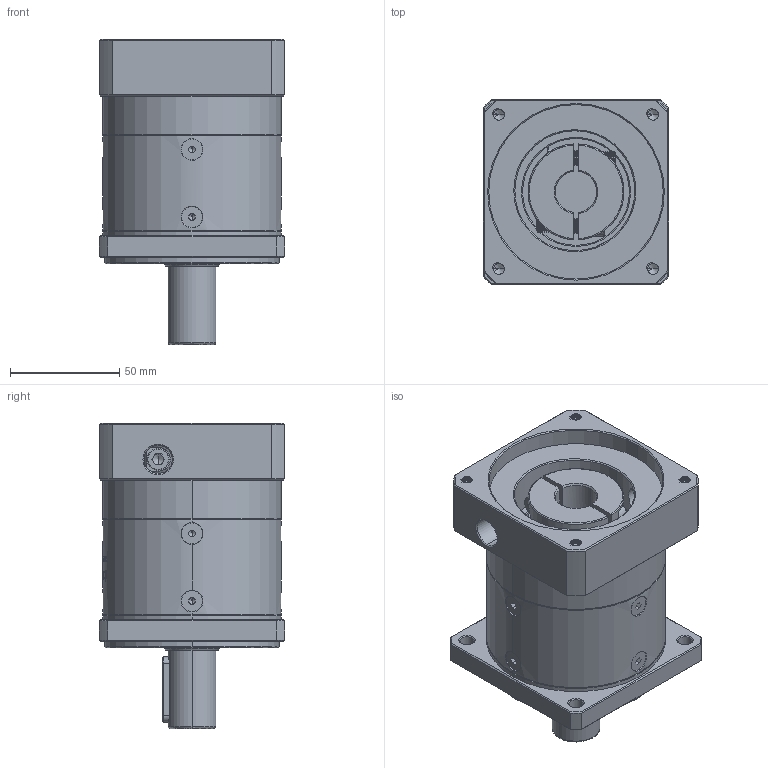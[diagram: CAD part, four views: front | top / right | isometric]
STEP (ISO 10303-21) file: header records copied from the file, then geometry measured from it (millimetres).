
FILE_DESCRIPTION (( 'STEP AP214' ), '1' );
FILE_NAME ('ZF80-D22-L1-19-80-100-M6.step', '2022-05-08T09:17:37', ( '' ), ( 'Microsoft' ), 'SwSTEP 2.0', 'SolidWorks 2016', '' );
FILE_SCHEMA (( 'AUTOMOTIVE_DESIGN' ));
Length unit declared in the file: millimetre
Products named in the file (1): ZF80-D22-L1-19-80-100-M6
Bounding box: 85 x 85 x 140 mm (x, y, z)
Volume: 537059.4 mm3; surface area: 89210.6 mm2
Topology: 13 solids, 13 shells, 1979 faces, 5117 edges, 3232 vertices
Faces by surface type: plane 896, cylinder 408, cone 338, bspline 320, torus 17
Entity records: 107749 total; most frequent: CARTESIAN_POINT 41333, ORIENTED_EDGE 10174, DIRECTION 8020, EDGE_CURVE 5087, VERTEX_POINT 3232, LINE 2762, VECTOR 2762, AXIS2_PLACEMENT_3D 2629
